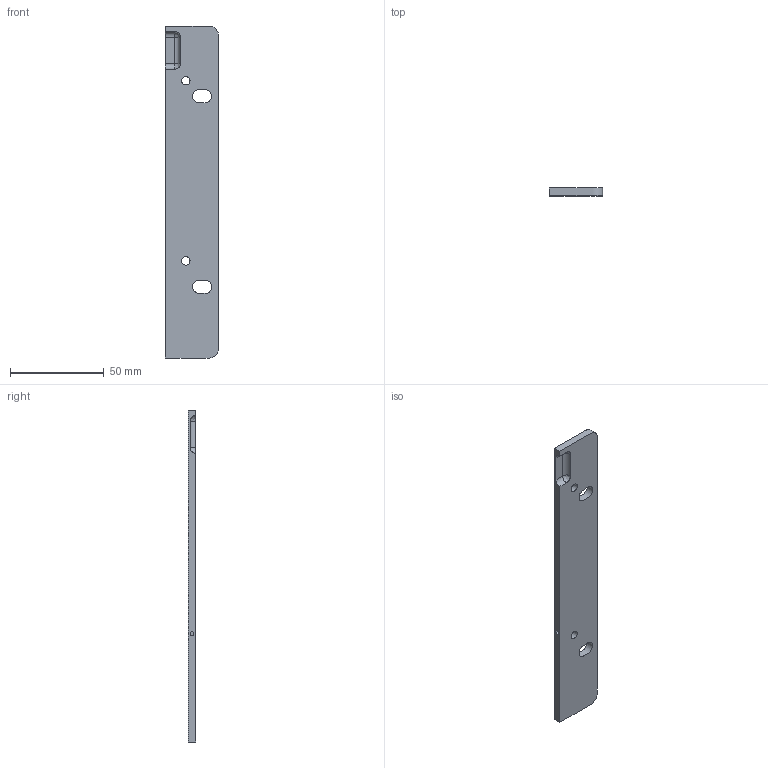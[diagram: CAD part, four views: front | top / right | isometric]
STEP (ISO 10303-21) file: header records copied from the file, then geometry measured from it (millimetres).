
FILE_DESCRIPTION (( 'STEP AP214' ), '1' );
FILE_NAME ('FP.4U.001-01_1 øò.STEP', '2023-05-17T06:33:01', ( '' ), ( '' ), 'SwSTEP 2.0', 'SolidWorks 2022', '' );
FILE_SCHEMA (( 'AUTOMOTIVE_DESIGN' ));
Length unit declared in the file: millimetre
Products named in the file (1): FP.4U.001-01_1 шт
Bounding box: 28.3 x 4 x 176.9 mm (x, y, z)
Volume: 19979.8 mm3; surface area: 12029.8 mm2
Topology: 1 solids, 1 shells, 16 faces, 39 edges, 24 vertices
Faces by surface type: cylinder 6, plane 5, bspline 5
Full cylindrical faces by diameter (mm): 2.1 x1, 4.5 x2
Entity records: 817 total; most frequent: CARTESIAN_POINT 274, ORIENTED_EDGE 64, DIRECTION 60, EDGE_CURVE 32, EDGE_LOOP 30, VERTEX_POINT 24, AXIS2_PLACEMENT_3D 24, FACE_OUTER_BOUND 21
